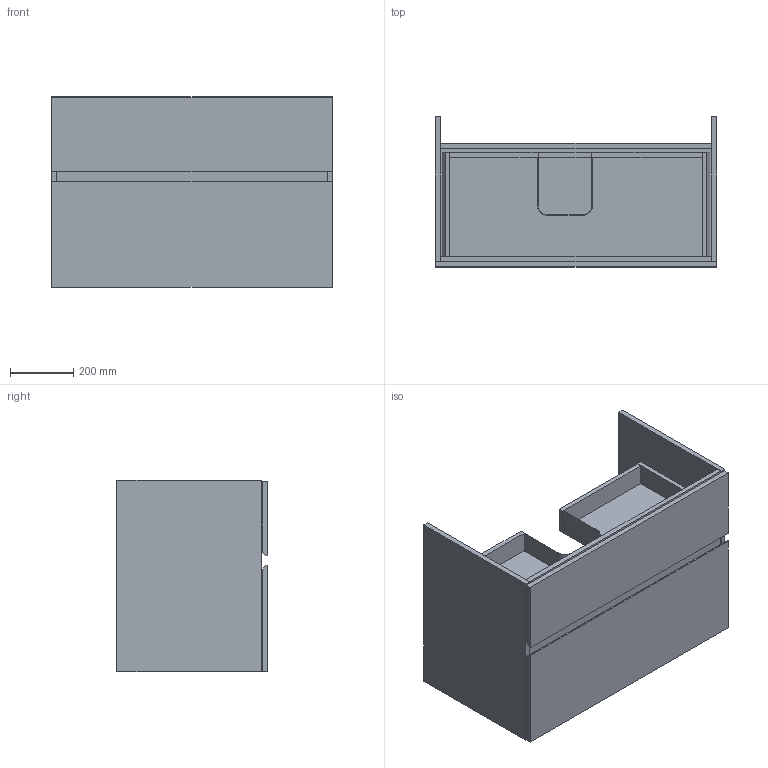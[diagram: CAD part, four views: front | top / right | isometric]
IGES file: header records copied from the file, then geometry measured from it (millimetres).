
Global section: file name: 510021; native system: Autodesk Inventor 2023; preprocessor: unknown; author: JANAN; date: 20241002.131621; units: millimetre
Bounding box: 888 x 474.5 x 605 mm (x, y, z)
Volume: 40487295.5 mm3; surface area: 5415836.7 mm2
Topology: 9 solids, 9 shells, 122 faces, 306 edges, 200 vertices
Faces by surface type: bspline 122
